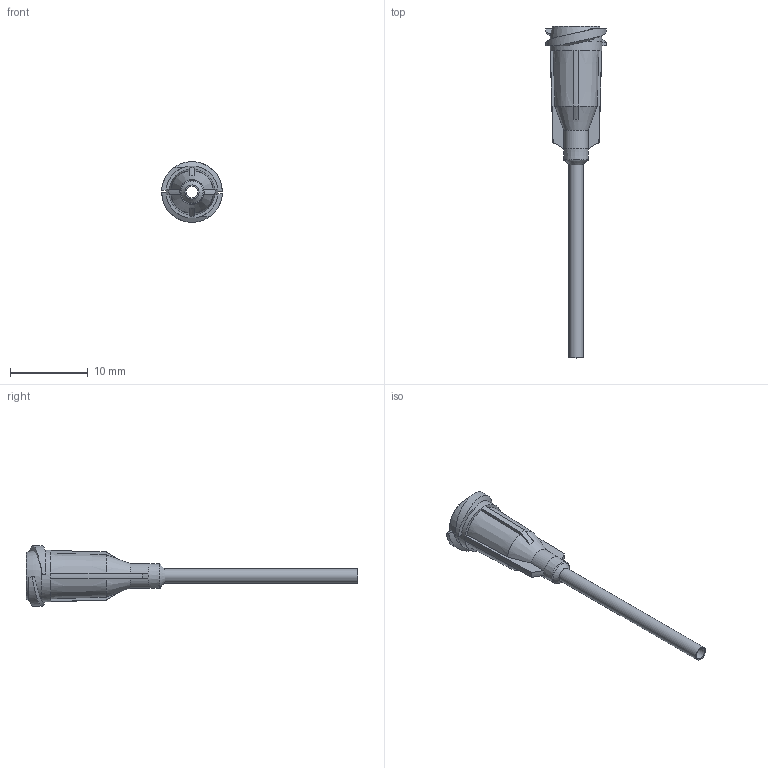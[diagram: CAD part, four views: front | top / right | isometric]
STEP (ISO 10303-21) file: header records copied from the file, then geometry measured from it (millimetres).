
FILE_DESCRIPTION (( 'STEP AP214' ), '1' );
FILE_NAME ('DAV TE 15 10.STEP', '2023-09-29T06:07:59', ( '' ), ( '' ), 'SwSTEP 2.0', 'SolidWorks 2022', '' );
FILE_SCHEMA (( 'AUTOMOTIVE_DESIGN' ));
Length unit declared in the file: millimetre
Products named in the file (1): DAV TE 15 10
Bounding box: 7.82 x 42.77 x 7.81 mm (x, y, z)
Volume: 272.9 mm3; surface area: 813 mm2
Topology: 1 solids, 1 shells, 63 faces, 161 edges, 101 vertices
Faces by surface type: plane 23, cone 16, bspline 10, cylinder 7, torus 7
Full cylindrical faces by diameter (mm): 1.51 x1, 1.83 x1, 2.87 x1, 6.655 x1
Entity records: 2066 total; most frequent: CARTESIAN_POINT 796, ORIENTED_EDGE 262, DIRECTION 228, EDGE_CURVE 131, AXIS2_PLACEMENT_3D 99, VERTEX_POINT 89, EDGE_LOOP 80, FACE_OUTER_BOUND 71
